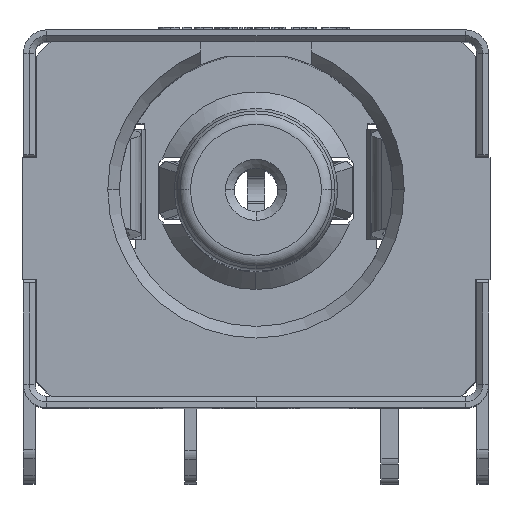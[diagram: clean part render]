
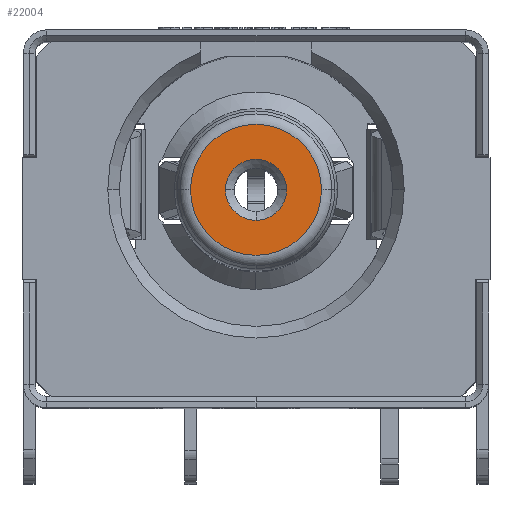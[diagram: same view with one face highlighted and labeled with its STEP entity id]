
A CAD part, top view. The second image highlights one B-rep face of the part: STEP entity #22004.
In plain terms, the highlighted planar face has unit normal (0, 0, 1).
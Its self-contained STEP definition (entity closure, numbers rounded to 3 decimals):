
#2769 = AXIS2_PLACEMENT_3D ( 'NONE', #12998, #19199, #13554 ) ;
#3443 = DIRECTION ( 'NONE',  ( 0., 0., 1. ) ) ;
#4510 = CARTESIAN_POINT ( 'NONE',  ( 0., 0., 11.4 ) ) ;
#5904 = EDGE_CURVE ( 'NONE', #29251, #13080, #10570, .T. ) ;
#8235 = VERTEX_POINT ( 'NONE', #9863 ) ;
#8503 = CARTESIAN_POINT ( 'NONE',  ( -1.126, 0., 11.4 ) ) ;
#9023 = AXIS2_PLACEMENT_3D ( 'NONE', #20499, #35509, #9605 ) ;
#9605 = DIRECTION ( 'NONE',  ( 1., 0., 0. ) ) ;
#9863 = CARTESIAN_POINT ( 'NONE',  ( -0.525, 0., 11.4 ) ) ;
#10570 = CIRCLE ( 'NONE', #2769, 0.525 ) ;
#11217 = AXIS2_PLACEMENT_3D ( 'NONE', #22991, #3443, #19998 ) ;
#11662 = EDGE_LOOP ( 'NONE', ( #28600, #32489, #18466 ) ) ;
#12998 = CARTESIAN_POINT ( 'NONE',  ( 0., 0., 11.4 ) ) ;
#13080 = VERTEX_POINT ( 'NONE', #32735 ) ;
#13296 = AXIS2_PLACEMENT_3D ( 'NONE', #4510, #30074, #27610 ) ;
#13554 = DIRECTION ( 'NONE',  ( 1., 0., 0. ) ) ;
#13613 = DIRECTION ( 'NONE',  ( 1., 0., 0. ) ) ;
#14330 = ORIENTED_EDGE ( 'NONE', *, *, #25427, .T. ) ;
#16819 = CIRCLE ( 'NONE', #9023, 0.525 ) ;
#16848 = VERTEX_POINT ( 'NONE', #8503 ) ;
#17227 = VERTEX_POINT ( 'NONE', #19723 ) ;
#18001 = ORIENTED_EDGE ( 'NONE', *, *, #30973, .T. ) ;
#18466 = ORIENTED_EDGE ( 'NONE', *, *, #31792, .T. ) ;
#18580 = EDGE_LOOP ( 'NONE', ( #18001, #14330 ) ) ;
#18590 = FACE_BOUND ( 'NONE', #11662, .T. ) ;
#18773 = CARTESIAN_POINT ( 'NONE',  ( 0., 0., 11.4 ) ) ;
#19199 = DIRECTION ( 'NONE',  ( 0., 0., -1. ) ) ;
#19683 = DIRECTION ( 'NONE',  ( 0., 0., 1. ) ) ;
#19723 = CARTESIAN_POINT ( 'NONE',  ( 1.126, 0., 11.4 ) ) ;
#19850 = CIRCLE ( 'NONE', #24655, 1.126 ) ;
#19998 = DIRECTION ( 'NONE',  ( -1., 0., 0. ) ) ;
#20499 = CARTESIAN_POINT ( 'NONE',  ( 0., 0., 11.4 ) ) ;
#21586 = FACE_OUTER_BOUND ( 'NONE', #18580, .T. ) ;
#22004 = ADVANCED_FACE ( 'NONE', ( #18590, #21586 ), #35848, .T. ) ;
#22991 = CARTESIAN_POINT ( 'NONE',  ( 0., 0., 11.4 ) ) ;
#24655 = AXIS2_PLACEMENT_3D ( 'NONE', #33517, #33155, #13613 ) ;
#25427 = EDGE_CURVE ( 'NONE', #16848, #17227, #27416, .T. ) ;
#25898 = CARTESIAN_POINT ( 'NONE',  ( 0.525, 0., 11.4 ) ) ;
#27416 = CIRCLE ( 'NONE', #11217, 1.126 ) ;
#27610 = DIRECTION ( 'NONE',  ( -1., 0., 0. ) ) ;
#28320 = DIRECTION ( 'NONE',  ( 1., 0., 0. ) ) ;
#28600 = ORIENTED_EDGE ( 'NONE', *, *, #5904, .T. ) ;
#29251 = VERTEX_POINT ( 'NONE', #25898 ) ;
#30074 = DIRECTION ( 'NONE',  ( 0., 0., -1. ) ) ;
#30517 = EDGE_CURVE ( 'NONE', #13080, #8235, #16819, .T. ) ;
#30666 = CIRCLE ( 'NONE', #13296, 0.525 ) ;
#30973 = EDGE_CURVE ( 'NONE', #17227, #16848, #19850, .T. ) ;
#31792 = EDGE_CURVE ( 'NONE', #8235, #29251, #30666, .T. ) ;
#32489 = ORIENTED_EDGE ( 'NONE', *, *, #30517, .T. ) ;
#32735 = CARTESIAN_POINT ( 'NONE',  ( 0., -0.525, 11.4 ) ) ;
#33155 = DIRECTION ( 'NONE',  ( 0., 0., 1. ) ) ;
#33517 = CARTESIAN_POINT ( 'NONE',  ( 0., 0., 11.4 ) ) ;
#35244 = AXIS2_PLACEMENT_3D ( 'NONE', #18773, #19683, #28320 ) ;
#35509 = DIRECTION ( 'NONE',  ( 0., 0., -1. ) ) ;
#35848 = PLANE ( 'NONE',  #35244 ) ;
